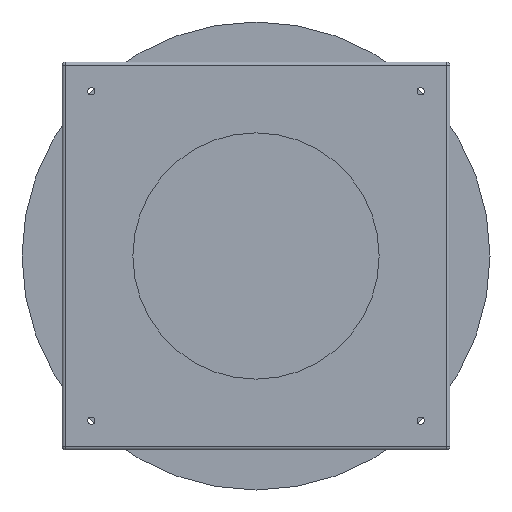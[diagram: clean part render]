
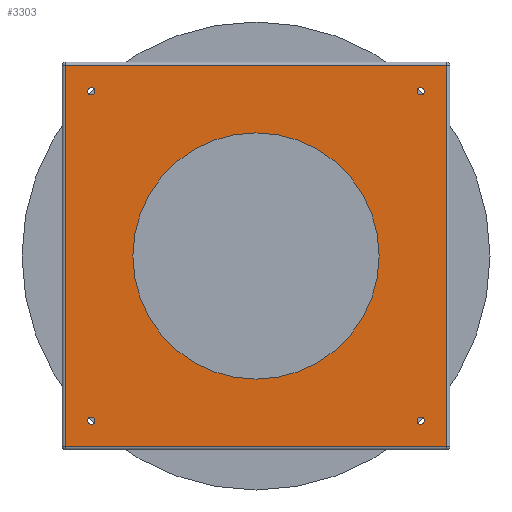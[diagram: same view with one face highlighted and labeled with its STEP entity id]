
A CAD part, front view. The second image highlights one B-rep face of the part: STEP entity #3303.
In plain terms, the highlighted planar face has unit normal (0, -1, 0).
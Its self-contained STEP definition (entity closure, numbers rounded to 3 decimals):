
#3303=ADVANCED_FACE('',(#7121,#7122,#7123,#7124,#7125,#7126),#7127,.F.);
#7121=FACE_BOUND('',#10948,.T.);
#7122=FACE_BOUND('',#10949,.T.);
#7123=FACE_BOUND('',#10950,.T.);
#7124=FACE_BOUND('',#10951,.T.);
#7125=FACE_BOUND('',#10952,.T.);
#7126=FACE_OUTER_BOUND('',#10953,.T.);
#7127=PLANE('',#10954);
#10948=EDGE_LOOP('',(#21810,#21811));
#10949=EDGE_LOOP('',(#21812,#21813));
#10950=EDGE_LOOP('',(#21814,#21815));
#10951=EDGE_LOOP('',(#21816,#21817));
#10952=EDGE_LOOP('',(#21818,#21819));
#10953=EDGE_LOOP('',(#21820,#21821,#21822,#21823));
#10954=AXIS2_PLACEMENT_3D('',#21824,#21825,#21826);
#21810=ORIENTED_EDGE('',*,*,#23036,.T.);
#21811=ORIENTED_EDGE('',*,*,#23003,.T.);
#21812=ORIENTED_EDGE('',*,*,#26174,.T.);
#21813=ORIENTED_EDGE('',*,*,#21925,.T.);
#21814=ORIENTED_EDGE('',*,*,#26177,.T.);
#21815=ORIENTED_EDGE('',*,*,#21920,.T.);
#21816=ORIENTED_EDGE('',*,*,#26180,.T.);
#21817=ORIENTED_EDGE('',*,*,#21915,.T.);
#21818=ORIENTED_EDGE('',*,*,#26183,.T.);
#21819=ORIENTED_EDGE('',*,*,#21910,.T.);
#21820=ORIENTED_EDGE('',*,*,#26191,.F.);
#21821=ORIENTED_EDGE('',*,*,#26197,.T.);
#21822=ORIENTED_EDGE('',*,*,#26203,.T.);
#21823=ORIENTED_EDGE('',*,*,#26231,.F.);
#21824=CARTESIAN_POINT('',(0.0,-180.5,0.0));
#21825=DIRECTION('',(0.0,1.0,0.0));
#21826=DIRECTION('',(0.0,0.0,1.0));
#21910=EDGE_CURVE('',#26271,#26275,#26277,.T.);
#21915=EDGE_CURVE('',#26280,#26284,#26286,.T.);
#21920=EDGE_CURVE('',#26289,#26293,#26295,.T.);
#21925=EDGE_CURVE('',#26298,#26302,#26304,.T.);
#23003=EDGE_CURVE('',#28448,#28452,#28454,.T.);
#23036=EDGE_CURVE('',#28452,#28448,#28500,.T.);
#26174=EDGE_CURVE('',#26302,#26298,#32667,.T.);
#26177=EDGE_CURVE('',#26293,#26289,#32670,.T.);
#26180=EDGE_CURVE('',#26284,#26280,#32673,.T.);
#26183=EDGE_CURVE('',#26275,#26271,#32676,.T.);
#26191=EDGE_CURVE('',#32681,#32687,#32688,.T.);
#26197=EDGE_CURVE('',#32681,#32695,#32697,.T.);
#26203=EDGE_CURVE('',#32695,#32699,#32706,.T.);
#26231=EDGE_CURVE('',#32687,#32699,#32747,.T.);
#26271=VERTEX_POINT('',#32790);
#26275=VERTEX_POINT('',#32795);
#26277=CIRCLE('',#32798,6.0);
#26280=VERTEX_POINT('',#32801);
#26284=VERTEX_POINT('',#32806);
#26286=CIRCLE('',#32809,6.0);
#26289=VERTEX_POINT('',#32812);
#26293=VERTEX_POINT('',#32817);
#26295=CIRCLE('',#32820,6.0);
#26298=VERTEX_POINT('',#32823);
#26302=VERTEX_POINT('',#32828);
#26304=CIRCLE('',#32831,6.0);
#28448=VERTEX_POINT('',#34993);
#28452=VERTEX_POINT('',#34998);
#28454=CIRCLE('',#35001,200.0);
#28500=CIRCLE('',#35051,200.0);
#32667=CIRCLE('',#40258,6.0);
#32670=CIRCLE('',#40261,6.0);
#32673=CIRCLE('',#40264,6.0);
#32676=CIRCLE('',#40267,6.0);
#32681=VERTEX_POINT('',#40272);
#32687=VERTEX_POINT('',#40278);
#32688=LINE('',#40279,#40280);
#32695=VERTEX_POINT('',#40289);
#32697=LINE('',#40291,#40292);
#32699=VERTEX_POINT('',#40294);
#32706=LINE('',#40301,#40302);
#32747=LINE('',#40351,#40352);
#32790=CARTESIAN_POINT('',(-261.5,-180.5,-267.5));
#32795=CARTESIAN_POINT('',(-273.5,-180.5,-267.5));
#32798=AXIS2_PLACEMENT_3D('',#40405,#40406,#40407);
#32801=CARTESIAN_POINT('',(273.5,-180.5,-267.5));
#32806=CARTESIAN_POINT('',(261.5,-180.5,-267.5));
#32809=AXIS2_PLACEMENT_3D('',#40413,#40414,#40415);
#32812=CARTESIAN_POINT('',(273.5,-180.5,267.5));
#32817=CARTESIAN_POINT('',(261.5,-180.5,267.5));
#32820=AXIS2_PLACEMENT_3D('',#40421,#40422,#40423);
#32823=CARTESIAN_POINT('',(-261.5,-180.5,267.5));
#32828=CARTESIAN_POINT('',(-273.5,-180.5,267.5));
#32831=AXIS2_PLACEMENT_3D('',#40429,#40430,#40431);
#34993=CARTESIAN_POINT('',(200.0,-180.5,0.));
#34998=CARTESIAN_POINT('',(-200.0,-180.5,0.));
#35001=AXIS2_PLACEMENT_3D('',#43608,#43609,#43610);
#35051=AXIS2_PLACEMENT_3D('',#43666,#43667,#43668);
#40258=AXIS2_PLACEMENT_3D('',#47856,#47857,#47858);
#40261=AXIS2_PLACEMENT_3D('',#47862,#47863,#47864);
#40264=AXIS2_PLACEMENT_3D('',#47868,#47869,#47870);
#40267=AXIS2_PLACEMENT_3D('',#47874,#47875,#47876);
#40272=CARTESIAN_POINT('',(310.0,-180.5,310.0));
#40278=CARTESIAN_POINT('',(310.0,-180.5,-310.0));
#40279=CARTESIAN_POINT('',(310.0,-180.5,0.0));
#40280=VECTOR('',#47889,1.0);
#40289=CARTESIAN_POINT('',(-310.0,-180.5,310.0));
#40291=CARTESIAN_POINT('',(0.0,-180.5,310.0));
#40292=VECTOR('',#47898,1.0);
#40294=CARTESIAN_POINT('',(-310.0,-180.5,-310.0));
#40301=CARTESIAN_POINT('',(-310.0,-180.5,0.0));
#40302=VECTOR('',#47908,1.0);
#40351=CARTESIAN_POINT('',(0.,-180.5,-310.0));
#40352=VECTOR('',#47953,1.0);
#40405=CARTESIAN_POINT('',(-267.5,-180.5,-267.5));
#40406=DIRECTION('',(-0.0,1.0,0.0));
#40407=DIRECTION('',(1.0,0.0,0.0));
#40413=CARTESIAN_POINT('',(267.5,-180.5,-267.5));
#40414=DIRECTION('',(-0.0,1.0,0.0));
#40415=DIRECTION('',(1.0,0.0,0.0));
#40421=CARTESIAN_POINT('',(267.5,-180.5,267.5));
#40422=DIRECTION('',(-0.0,1.0,0.0));
#40423=DIRECTION('',(1.0,0.0,0.0));
#40429=CARTESIAN_POINT('',(-267.5,-180.5,267.5));
#40430=DIRECTION('',(-0.0,1.0,0.0));
#40431=DIRECTION('',(1.0,0.0,0.0));
#43608=CARTESIAN_POINT('',(0.0,-180.5,0.0));
#43609=DIRECTION('',(-0.0,1.0,0.0));
#43610=DIRECTION('',(1.0,0.0,0.0));
#43666=CARTESIAN_POINT('',(0.0,-180.5,0.0));
#43667=DIRECTION('',(-0.0,1.0,0.0));
#43668=DIRECTION('',(1.0,0.0,0.0));
#47856=CARTESIAN_POINT('',(-267.5,-180.5,267.5));
#47857=DIRECTION('',(-0.0,1.0,0.0));
#47858=DIRECTION('',(1.0,0.0,0.0));
#47862=CARTESIAN_POINT('',(267.5,-180.5,267.5));
#47863=DIRECTION('',(-0.0,1.0,0.0));
#47864=DIRECTION('',(1.0,0.0,0.0));
#47868=CARTESIAN_POINT('',(267.5,-180.5,-267.5));
#47869=DIRECTION('',(-0.0,1.0,0.0));
#47870=DIRECTION('',(1.0,0.0,0.0));
#47874=CARTESIAN_POINT('',(-267.5,-180.5,-267.5));
#47875=DIRECTION('',(-0.0,1.0,0.0));
#47876=DIRECTION('',(1.0,0.0,0.0));
#47889=DIRECTION('',(0.0,0.0,-1.0));
#47898=DIRECTION('',(-1.0,0.,0.));
#47908=DIRECTION('',(0.0,0.0,-1.0));
#47953=DIRECTION('',(-1.0,0.,0.));
